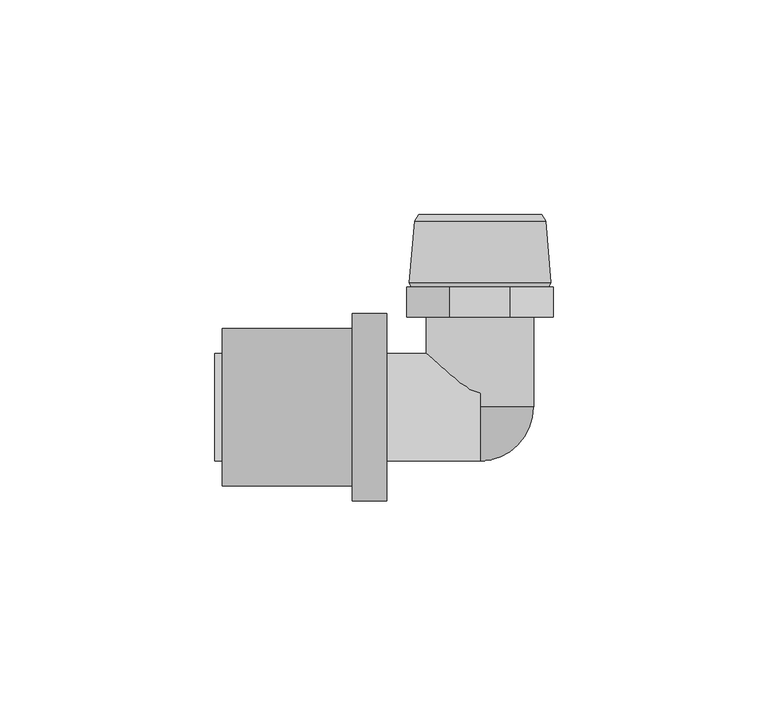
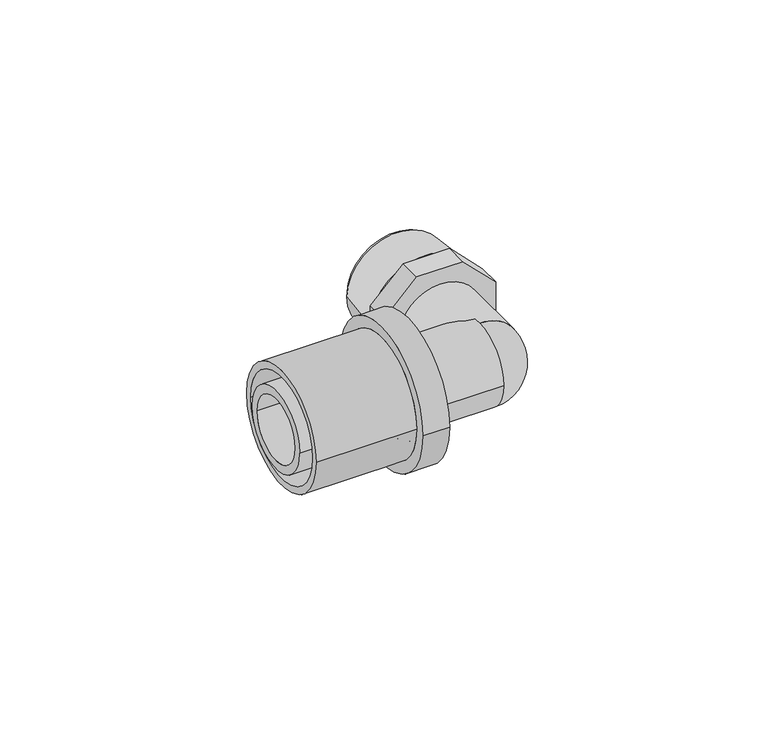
"""IFC4 building model written with IfcOpenShell, lengths in millimetres: pipe fitting geometry, FASTLOC_Elbow with male thread EX+ : FSL A internal AT."""

from ifc_helpers import new_model, si_unit, point, frame, origin, origin_2d, place, context, project, spatial, polyline, circle_curve, ellipse_curve, trimmed, segment, composite_curve, outline, extrude, source, transform, mapped, element, save
from ifc_brep_helpers import plane_surface, cylinder_surface, revolved_surface, advanced_brep


def pipe_fitting_546e3b0f(model_context):
    return source(origin(), model_context, "Body", "SolidModel", [
        advanced_brep(
        [(-29.7, -21.8, 0.0), (-29.7, 21.8, 0.0), (-21.7, 21.8, 0.0), (-21.7, -21.8, 0.0), (-60.0, -18.35, 0.0), (-60.0, 18.35, 0.0), (-29.7, 18.35, 0.0), (-29.7, -18.35, 0.0), (-21.7, -16.2, 0.0), (-21.7, 16.2, 0.0), (-60.0, 16.2, 0.0), (-60.0, -16.2, 0.0)],
        [
            (0, 1, circle_curve(frame((-29.7, 0.0, 0.0), z_axis=(1.0, 0.0, 0.0), x_axis=(0.0, 1.0, 0.0)), 21.8)),
            (1, 2),
            (2, 3, circle_curve(frame((-21.7, 0.0, 0.0), z_axis=(-1.0, 0.0, 0.0), x_axis=(0.0, 1.0, 0.0)), 21.8)),
            (3, 0),
            (4, 5, circle_curve(frame((-60.0, 0.0, 0.0), z_axis=(1.0, 0.0, 0.0), x_axis=(0.0, 1.0, 0.0)), 18.35)),
            (5, 6),
            (6, 7, circle_curve(frame((-29.7, 0.0, 0.0), z_axis=(-1.0, 0.0, 0.0), x_axis=(0.0, 1.0, 0.0)), 18.35)),
            (7, 4),
            (8, 9, circle_curve(frame((-21.7, 0.0, 0.0), z_axis=(1.0, 0.0, 0.0), x_axis=(0.0, 1.0, 0.0)), 16.2)),
            (9, 10),
            (10, 11, circle_curve(frame((-60.0, 0.0, 0.0), z_axis=(-1.0, 0.0, 0.0), x_axis=(0.0, 1.0, 0.0)), 16.2)),
            (11, 8),
            (1, 0, circle_curve(frame((-29.7, 0.0, 0.0), z_axis=(1.0, 0.0, 0.0), x_axis=(0.0, -1.0, 0.0)), 21.8)),
            (3, 2, circle_curve(frame((-21.7, 0.0, 0.0), z_axis=(-1.0, 0.0, 0.0), x_axis=(0.0, -1.0, 0.0)), 21.8)),
            (6, 7, circle_curve(frame((-29.7, 0.0, 0.0), z_axis=(1.0, 0.0, 0.0), x_axis=(0.0, -1.0, 0.0)), 18.35)),
            (5, 4, circle_curve(frame((-60.0, 0.0, 0.0), z_axis=(1.0, 0.0, 0.0), x_axis=(0.0, -1.0, 0.0)), 18.35)),
            (10, 11, circle_curve(frame((-60.0, 0.0, 0.0), z_axis=(1.0, 0.0, 0.0), x_axis=(0.0, -1.0, 0.0)), 16.2)),
            (9, 8, circle_curve(frame((-21.7, 0.0, 0.0), z_axis=(1.0, 0.0, 0.0), x_axis=(0.0, -1.0, 0.0)), 16.2)),
        ],
        [
            cylinder_surface(frame((-21.7, 0.0, 0.0), z_axis=(-1.0, 0.0, 0.0), x_axis=(0.0, 1.0, 0.0)), 21.8),
            cylinder_surface(frame((-21.7, 0.0, 0.0), z_axis=(-1.0, 0.0, 0.0), x_axis=(0.0, 1.0, 0.0)), 18.35),
            revolved_surface(polyline([(-60.0, 16.2, 0.0), (-21.7, 16.2, 0.0)]), (-21.7, 0.0, 0.0), (-1.0, 0.0, 0.0)),
            cylinder_surface(frame((-21.7, 0.0, 0.0), z_axis=(-1.0, 0.0, 0.0), x_axis=(0.0, -1.0, 0.0)), 21.8),
            plane_surface(frame((-29.7, 0.0, 0.0), z_axis=(-1.0, 0.0, 0.0), x_axis=(0.0, -1.0, 0.0))),
            cylinder_surface(frame((-21.7, 0.0, 0.0), z_axis=(-1.0, 0.0, 0.0), x_axis=(0.0, -1.0, 0.0)), 18.35),
            plane_surface(frame((-60.0, 0.0, 0.0), z_axis=(-1.0, 0.0, 0.0), x_axis=(0.0, -1.0, 0.0))),
            revolved_surface(polyline([(-60.0, -16.2, 0.0), (-21.7, -16.2, 0.0)]), (-21.7, 0.0, 0.0), (-1.0, 0.0, 0.0)),
            plane_surface(frame((-21.7, 0.0, 0.0), z_axis=(1.0, 0.0, 0.0), x_axis=(0.0, -1.0, 0.0))),
        ],
        [
            (0, [[1, 2, 3, 4]]),
            (1, [[5, 6, 7, 8]]),
            (2, [[9, 10, 11, 12]]),
            (3, [[13, -4, 14, -2]]),
            (4, [[-13, -1], [15, -7]]),
            (5, [[16, -8, -15, -6]]),
            (6, [[-16, -5], [17, -11]]),
            (7, [[18, -12, -17, -10]]),
            (8, [[-14, -3], [-18, -9]]),
        ],
    ),
        advanced_brep(
        [(15.25, 43.3000007, 0.0), (-15.25, 43.3000007, 0.0), (-14.3, 44.8, 0.0), (14.3, 44.8, 0.0), (16.5, 29.0531902, 0.0), (-16.5, 29.0531902, 0.0), (16.0, 28.0, 0.0), (-16.0, 28.0, 0.0), (12.0, 29.4157803, 0.0), (-12.0, 29.4157803, 0.0), (-10.8967197, 28.0, 0.0), (10.8967197, 28.0, 0.0), (12.0, 44.8, 0.0), (-12.0, 44.8, 0.0)],
        [
            (0, 1, circle_curve(frame((0.0, 43.3000007, 0.0), z_axis=(0.0, 1.0, 0.0), x_axis=(-1.0, 0.0, 0.0)), 15.25)),
            (1, 2),
            (2, 3, circle_curve(frame((0.0, 44.8, 0.0), z_axis=(0.0, -1.0, 0.0), x_axis=(-1.0, 0.0, 0.0)), 14.3)),
            (3, 0),
            (4, 5, circle_curve(frame((0.0, 29.0531902, 0.0), z_axis=(0.0, 1.0, 0.0), x_axis=(-1.0, 0.0, 0.0)), 16.5)),
            (5, 1),
            (0, 4),
            (6, 7, circle_curve(frame((0.0, 28.0, 0.0), z_axis=(0.0, 1.0, 0.0), x_axis=(-1.0, 0.0, 0.0)), 16.0)),
            (7, 5),
            (4, 6),
            (8, 9, circle_curve(frame((0.0, 29.4157803, 0.0), z_axis=(0.0, 1.0, 0.0), x_axis=(-1.0, 0.0, 0.0)), 12.0)),
            (9, 10),
            (10, 11, circle_curve(frame((0.0, 28.0, 0.0), z_axis=(0.0, -1.0, 0.0), x_axis=(-1.0, 0.0, 0.0)), 10.8967197)),
            (11, 8),
            (12, 13, circle_curve(frame((0.0, 44.8, 0.0), z_axis=(0.0, 1.0, 0.0), x_axis=(-1.0, 0.0, 0.0)), 12.0)),
            (13, 9),
            (8, 12),
            (2, 3, circle_curve(frame((0.0, 44.8, 0.0), z_axis=(0.0, 1.0, 0.0), x_axis=(1.0, 0.0, 0.0)), 14.3)),
            (12, 13, circle_curve(frame((0.0, 44.8, 0.0), z_axis=(0.0, -1.0, 0.0), x_axis=(1.0, 0.0, 0.0)), 12.0)),
            (1, 0, circle_curve(frame((0.0, 43.3000007, 0.0), z_axis=(0.0, 1.0, 0.0), x_axis=(1.0, 0.0, 0.0)), 15.25)),
            (5, 4, circle_curve(frame((0.0, 29.0531902, 0.0), z_axis=(0.0, 1.0, 0.0), x_axis=(1.0, 0.0, 0.0)), 16.5)),
            (7, 6, circle_curve(frame((0.0, 28.0, 0.0), z_axis=(0.0, 1.0, 0.0), x_axis=(1.0, 0.0, 0.0)), 16.0)),
            (10, 11, circle_curve(frame((0.0, 28.0, 0.0), z_axis=(0.0, 1.0, 0.0), x_axis=(1.0, 0.0, 0.0)), 10.8967197)),
            (9, 8, circle_curve(frame((0.0, 29.4157803, 0.0), z_axis=(0.0, 1.0, 0.0), x_axis=(1.0, 0.0, 0.0)), 12.0)),
        ],
        [
            revolved_surface(polyline([(-14.3, 44.8, 0.0), (-15.25, 43.3000007, 0.0)]), (0.0, 21.0, 0.0), (0.0, -1.0, 0.0)),
            revolved_surface(polyline([(-15.25, 43.3000007, 0.0), (-16.5, 29.0531902, 0.0)]), (0.0, 21.0, 0.0), (0.0, -1.0, 0.0)),
            revolved_surface(polyline([(-16.5, 29.0531902, 0.0), (-16.0, 28.0, 0.0)]), (0.0, 21.0, 0.0), (0.0, -1.0, 0.0)),
            revolved_surface(polyline([(-10.8967197, 28.0, 0.0), (-12.0, 29.4157803, 0.0)]), (0.0, 21.0, 0.0), (0.0, -1.0, 0.0)),
            revolved_surface(polyline([(-12.0, 29.4157803, 0.0), (-12.0, 44.8, 0.0)]), (0.0, 21.0, 0.0), (0.0, -1.0, 0.0)),
            plane_surface(frame((0.0, 44.8, 0.0), z_axis=(0.0, 1.0, 0.0), x_axis=(1.0, 0.0, 0.0))),
            revolved_surface(polyline([(14.3, 44.8, 0.0), (15.25, 43.3000007, 0.0)]), (0.0, 21.0, 0.0), (0.0, -1.0, 0.0)),
            revolved_surface(polyline([(15.25, 43.3000007, 0.0), (16.5, 29.0531902, 0.0)]), (0.0, 21.0, 0.0), (0.0, -1.0, 0.0)),
            revolved_surface(polyline([(16.5, 29.0531902, 0.0), (16.0, 28.0, 0.0)]), (0.0, 21.0, 0.0), (0.0, -1.0, 0.0)),
            plane_surface(frame((0.0, 28.0, 0.0), z_axis=(0.0, -1.0, 0.0), x_axis=(1.0, 0.0, 0.0))),
            revolved_surface(polyline([(10.8967197, 28.0, 0.0), (12.0, 29.4157803, 0.0)]), (0.0, 21.0, 0.0), (0.0, -1.0, 0.0)),
            revolved_surface(polyline([(12.0, 29.4157803, 0.0), (12.0, 44.8, 0.0)]), (0.0, 21.0, 0.0), (0.0, -1.0, 0.0)),
        ],
        [
            (0, [[1, 2, 3, 4]]),
            (1, [[5, 6, -1, 7]]),
            (2, [[8, 9, -5, 10]]),
            (3, [[11, 12, 13, 14]]),
            (4, [[15, 16, -11, 17]]),
            (5, [[18, -3], [19, -15]]),
            (6, [[20, -4, -18, -2]]),
            (7, [[21, -7, -20, -6]]),
            (8, [[22, -10, -21, -9]]),
            (9, [[-22, -8], [23, -13]]),
            (10, [[24, -14, -23, -12]]),
            (11, [[-19, -17, -24, -16]]),
        ],
    ),
        advanced_brep(
        [(-29.7, 12.5, 0.0), (-29.7, -12.5, 0.0), (-61.7, -12.5, 0.0), (-61.7, 12.5, 0.0), (-26.7, 14.1, 0.0), (-26.7, -14.1, 0.0), (-29.7, -14.1, 0.0), (-29.7, 14.1, 0.0), (0.0, 12.5, 0.0), (0.0, -12.5, 0.0), (-26.7, -12.5, 0.0), (-26.7, 12.5, 0.0), (-61.7, 9.85, 0.0), (-61.7, -9.85, 0.0), (0.0, -9.85, 0.0), (0.0, 9.85, 0.0)],
        [
            (0, 1, circle_curve(frame((-29.7, 0.0, 0.0), z_axis=(-1.0, 0.0, 0.0), x_axis=(0.0, -1.0, 0.0)), 12.5)),
            (1, 2),
            (2, 3, circle_curve(frame((-61.7, 0.0, 0.0), z_axis=(1.0, 0.0, 0.0), x_axis=(0.0, -1.0, 0.0)), 12.5)),
            (3, 0),
            (4, 5, circle_curve(frame((-26.7, 0.0, 0.0), z_axis=(-1.0, 0.0, 0.0), x_axis=(0.0, -1.0, 0.0)), 14.1)),
            (5, 6),
            (6, 7, circle_curve(frame((-29.7, 0.0, 0.0), z_axis=(1.0, 0.0, 0.0), x_axis=(0.0, -1.0, 0.0)), 14.1)),
            (7, 4),
            (8, 9, circle_curve(frame((0.0, 0.0, 0.0), z_axis=(-1.0, 0.0, 0.0), x_axis=(0.0, -1.0, 0.0)), 12.5)),
            (9, 10),
            (10, 11, circle_curve(frame((-26.7, 0.0, 0.0), z_axis=(1.0, 0.0, 0.0), x_axis=(0.0, -1.0, 0.0)), 12.5)),
            (11, 8),
            (12, 13, circle_curve(frame((-61.7, 0.0, 0.0), z_axis=(-1.0, 0.0, 0.0), x_axis=(0.0, -1.0, 0.0)), 9.85)),
            (13, 14),
            (14, 15, circle_curve(frame((0.0, 0.0, 0.0), z_axis=(1.0, 0.0, 0.0), x_axis=(0.0, -1.0, 0.0)), 9.85)),
            (15, 12),
            (2, 3, circle_curve(frame((-61.7, 0.0, 0.0), z_axis=(-1.0, 0.0, 0.0), x_axis=(0.0, 1.0, 0.0)), 12.5)),
            (12, 13, circle_curve(frame((-61.7, 0.0, 0.0), z_axis=(1.0, 0.0, 0.0), x_axis=(0.0, 1.0, 0.0)), 9.85)),
            (1, 0, circle_curve(frame((-29.7, 0.0, 0.0), z_axis=(-1.0, 0.0, 0.0), x_axis=(0.0, 1.0, 0.0)), 12.5)),
            (6, 7, circle_curve(frame((-29.7, 0.0, 0.0), z_axis=(-1.0, 0.0, 0.0), x_axis=(0.0, 1.0, 0.0)), 14.1)),
            (5, 4, circle_curve(frame((-26.7, 0.0, 0.0), z_axis=(-1.0, 0.0, 0.0), x_axis=(0.0, 1.0, 0.0)), 14.1)),
            (10, 11, circle_curve(frame((-26.7, 0.0, 0.0), z_axis=(-1.0, 0.0, 0.0), x_axis=(0.0, 1.0, 0.0)), 12.5)),
            (9, 8, circle_curve(frame((0.0, 0.0, 0.0), z_axis=(-1.0, 0.0, 0.0), x_axis=(0.0, 1.0, 0.0)), 12.5)),
            (14, 15, circle_curve(frame((0.0, 0.0, 0.0), z_axis=(-1.0, 0.0, 0.0), x_axis=(0.0, 1.0, 0.0)), 9.85)),
        ],
        [
            cylinder_surface(frame((0.0, 0.0, 0.0), z_axis=(1.0, 0.0, 0.0), x_axis=(0.0, -1.0, 0.0)), 12.5),
            cylinder_surface(frame((0.0, 0.0, 0.0), z_axis=(1.0, 0.0, 0.0), x_axis=(0.0, -1.0, 0.0)), 14.1),
            revolved_surface(polyline([(0.0, -9.85, 0.0), (-61.7, -9.85, 0.0)]), (0.0, 0.0, 0.0), (1.0, 0.0, 0.0)),
            plane_surface(frame((-61.7, 0.0, 0.0), z_axis=(-1.0, 0.0, 0.0), x_axis=(0.0, 1.0, 0.0))),
            cylinder_surface(frame((0.0, 0.0, 0.0), z_axis=(1.0, 0.0, 0.0), x_axis=(0.0, 1.0, 0.0)), 12.5),
            plane_surface(frame((-29.7, 0.0, 0.0), z_axis=(-1.0, 0.0, 0.0), x_axis=(0.0, 1.0, 0.0))),
            cylinder_surface(frame((0.0, 0.0, 0.0), z_axis=(1.0, 0.0, 0.0), x_axis=(0.0, 1.0, 0.0)), 14.1),
            plane_surface(frame((-26.7, 0.0, 0.0), z_axis=(1.0, 0.0, 0.0), x_axis=(0.0, 1.0, 0.0))),
            plane_surface(frame((0.0, 0.0, 0.0), z_axis=(1.0, 0.0, 0.0), x_axis=(0.0, 1.0, 0.0))),
            revolved_surface(polyline([(0.0, 9.85, 0.0), (-61.7, 9.85, 0.0)]), (0.0, 0.0, 0.0), (1.0, 0.0, 0.0)),
        ],
        [
            (0, [[1, 2, 3, 4]]),
            (1, [[5, 6, 7, 8]]),
            (0, [[9, 10, 11, 12]]),
            (2, [[13, 14, 15, 16]]),
            (3, [[17, -3], [18, -13]]),
            (4, [[19, -4, -17, -2]]),
            (5, [[20, -7], [-19, -1]]),
            (6, [[21, -8, -20, -6]]),
            (7, [[-21, -5], [22, -11]]),
            (4, [[23, -12, -22, -10]]),
            (8, [[-23, -9], [24, -15]]),
            (9, [[-18, -16, -24, -14]]),
        ],
    ),
        advanced_brep(
        [(0.0, -12.5, 0.0), (0.0, 0.0, 12.5), (0.0, 0.0, 9.85), (0.0, -9.85, 0.0), (0.0, 0.0, -9.85), (0.0, 0.0, -12.5)],
        [
            (0, 1, circle_curve(frame((0.0, 0.0, 0.0), z_axis=(-1.0, 0.0, 0.0), x_axis=(0.0, 0.0, 1.0)), 12.5)),
            (1, 2),
            (2, 3, circle_curve(frame((0.0, 0.0, 0.0), z_axis=(1.0, 0.0, 0.0), x_axis=(0.0, 0.0, 1.0)), 9.85)),
            (3, 0),
            (3, 4, circle_curve(frame((0.0, 0.0, 0.0), z_axis=(1.0, 0.0, 0.0), x_axis=(0.0, 0.0, -1.0)), 9.85)),
            (4, 5),
            (5, 0, circle_curve(frame((0.0, 0.0, 0.0), z_axis=(-1.0, 0.0, 0.0), x_axis=(0.0, 0.0, -1.0)), 12.5)),
            (5, 1, circle_curve(frame((0.0, 0.0, 0.0), z_axis=(0.0, -1.0, 0.0), x_axis=(0.0, 0.0, 1.0)), 12.5)),
            (4, 2, circle_curve(frame((0.0, 0.0, 0.0), z_axis=(0.0, -1.0, 0.0), x_axis=(0.0, 0.0, 1.0)), 9.85)),
        ],
        [
            plane_surface(frame((0.0, 0.0, 0.0), z_axis=(-1.0, 0.0, 0.0), x_axis=(0.0, 0.0, 1.0))),
            plane_surface(frame((0.0, 0.0, 0.0), z_axis=(-1.0, 0.0, 0.0), x_axis=(0.0, 0.0, -1.0))),
            revolved_surface(trimmed(ellipse_curve(frame((0.0, 0.0, 0.0), z_axis=(-1.0, 0.0, 0.0), x_axis=(0.0, 0.0, 1.0)), 12.5, 12.5), [point((0.0, -12.5, 0.0))], [point((0.0, 0.0, 12.5))], True, "CARTESIAN"), (0.0, 0.0, 0.0), (0.0, 1.0, 0.0)),
            plane_surface(frame((0.0, 0.0, 0.0), z_axis=(0.0, 1.0, 0.0), x_axis=(0.0, 0.0, 1.0))),
            revolved_surface(trimmed(ellipse_curve(frame((0.0, 0.0, 0.0), z_axis=(1.0, 0.0, 0.0), x_axis=(0.0, 0.0, 1.0)), 9.85, 9.85), [point((0.0, 0.0, 9.85))], [point((0.0, -9.85, 0.0))], True, "CARTESIAN"), (0.0, 0.0, 0.0), (0.0, 1.0, 0.0)),
        ],
        [
            (0, [[1, 2, 3, 4]]),
            (1, [[5, 6, 7, -4]]),
            (2, [[8, -1, -7]]),
            (3, [[9, -2, -8, -6]]),
            (4, [[-3, -9, -5]]),
        ],
    ),
        extrude(outline(polyline([(-17.0, 7.0416306), (-7.0416306, 17.0), (7.0416306, 17.0), (17.0, 7.0416306), (17.0, -7.0416306), (7.0416306, -17.0), (-7.0416306, -17.0), (-17.0, -7.0416306), (-17.0, 7.0416306)])), frame((0.0, 21.0, 0.0), z_axis=(0.0, 1.0, 0.0), x_axis=(0.0, 0.0, 1.0)), (0.0, 0.0, 1.0), 7.0),
        extrude(outline(composite_curve([segment(trimmed(circle_curve(origin_2d(), 12.5), [point((0.0, -12.5))], [point((0.0, 12.5))], False, "CARTESIAN"), True, "CONTINUOUS"), segment(trimmed(circle_curve(origin_2d(), 12.5), [point((0.0, 12.5))], [point((0.0, -12.5))], False, "CARTESIAN"), True, "CONTINUOUS")], self_intersect=False), holes=[composite_curve([segment(trimmed(circle_curve(origin_2d(), 9.85), [point((0.0, -9.85))], [point((0.0, 9.85))], True, "CARTESIAN"), True, "CONTINUOUS"), segment(trimmed(circle_curve(origin_2d(), 9.85), [point((0.0, 9.85))], [point((0.0, -9.85))], True, "CARTESIAN"), True, "CONTINUOUS")], self_intersect=False)]), frame((0.0, 0.0, 0.0), z_axis=(0.0, 1.0, 0.0), x_axis=(0.0, 0.0, 1.0)), (0.0, 0.0, 1.0), 21.0),
    ])


if __name__ == "__main__":
    model = new_model("IFC4")
    model_context = context("Model", 3, world=origin())
    ifc_project = project(units=[si_unit("LENGTHUNIT", "METRE", prefix="MILLI")], contexts=[model_context])
    site = spatial("IfcSite", under=ifc_project)
    building = spatial("IfcBuilding", under=site)
    placement = place(None, origin())
    pipe_fitting_shape = pipe_fitting_546e3b0f(model_context)
    element("IfcPipeFitting", 1, ObjectType="FASTLOC_Elbow with male thread EX+ : FSL A internal AT", at=placement, inside=building, context=model_context, shape_type="MappedRepresentation", body=[
        mapped(pipe_fitting_shape, transform((0.0, 0.0, 0.0), x_axis=(1.0, 0.0, 0.0), y_axis=(0.0, 1.0, 0.0), z_axis=(0.0, 0.0, 1.0))),
    ])
    save(model, "model.ifc")
